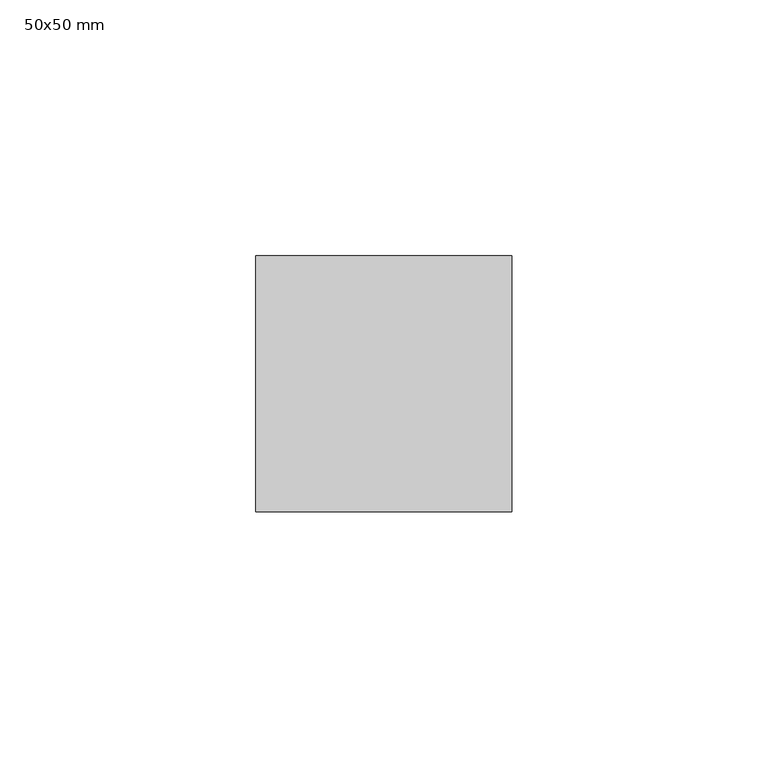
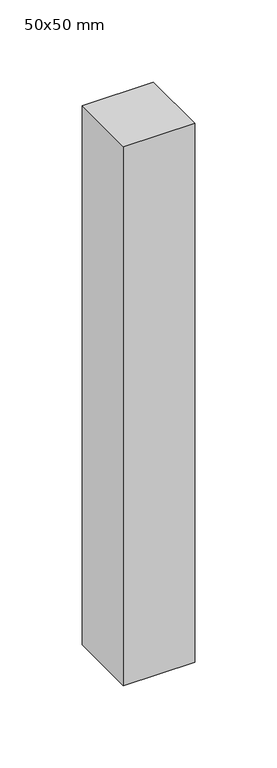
"""IFC4 building model written with IfcOpenShell, lengths in millimetres: member geometry, Obdélníková příčel : 50x50 mm."""

import ifcopenshell
import ifcopenshell.guid

model = None  # the IFC model being written
_history = None  # IfcOwnerHistory: only IFC2X3 demands one
_inside = {}  # id of a spatial element -> (the spatial element, [elements in it])
_under = {}  # id of a project, library or spatial element -> (it, [spatial elements below it])
_declared = {}  # id of a project -> (the project, [libraries it declares])
_typed = {}  # id of a type object -> (the type object, [elements of that type])
_made_of = {}  # id of a material, layer set ... -> (it, [elements and type objects made of it])


def new_model(schema):
    """Start an empty IFC model of exactly this schema.

    Asked for "IFC4X3", IfcOpenShell would pick the latest addendum, in which some entities
    have other attributes; the version numbers below select the first issue.
    IFC2X3 requires an IfcOwnerHistory on every rooted entity: one is made here for all.
    """
    global model, _history
    if schema == "IFC4X3":
        model = ifcopenshell.file(schema_version=(4, 3, 0, 0))
    else:
        model = ifcopenshell.file(schema=schema)
    _inside.clear()
    _under.clear()
    _declared.clear()
    _typed.clear()
    _made_of.clear()
    _history = None
    if model.schema == "IFC2X3":
        org = make("IfcOrganization", Name="unknown")
        user = make(
            "IfcPersonAndOrganization",
            ThePerson=make("IfcPerson", FamilyName="unknown"),
            TheOrganization=org,
        )
        app = make(
            "IfcApplication",
            ApplicationDeveloper=org,
            Version="unknown",
            ApplicationFullName="unknown",
            ApplicationIdentifier="unknown",
        )
        _history = make(
            "IfcOwnerHistory",
            OwningUser=user,
            OwningApplication=app,
            ChangeAction="ADDED",
            CreationDate=0,
        )
    return model


def make(cls, **values):
    """One entity of the class cls with the attributes given. An attribute that is None is left unset."""
    return model.create_entity(
        cls, **{name: value for name, value in values.items() if value is not None}
    )


def rooted(cls, **values):
    """An entity with a GlobalId (a new one), such as an element, a storey or a relation."""
    return make(cls, GlobalId=ifcopenshell.guid.new(), OwnerHistory=_history, **values)


def si_unit(unit_type, name, prefix=None):
    """IfcSIUnit, for example si_unit("LENGTHUNIT", "METRE", prefix="MILLI")."""
    return make("IfcSIUnit", UnitType=unit_type, Prefix=prefix, Name=name)


def assignment(units):
    """IfcUnitAssignment: the units of a project."""
    return None if units is None else make("IfcUnitAssignment", Units=units)


def point(xyz):
    """IfcCartesianPoint."""
    return None if xyz is None else make("IfcCartesianPoint", Coordinates=xyz)


def direction(xyz):
    """IfcDirection."""
    return None if xyz is None else make("IfcDirection", DirectionRatios=xyz)


def frame(location, z_axis=None, x_axis=None):
    """IfcAxis2Placement3D, a coordinate frame: its origin and axes. An axis left out is left unset."""
    return make(
        "IfcAxis2Placement3D",
        Location=point(location),
        Axis=direction(z_axis),
        RefDirection=direction(x_axis),
    )


def origin():
    """The frame at (0, 0, 0) with its axes left unset."""
    return frame((0.0, 0.0, 0.0))


def place(relative_to, where):
    """IfcLocalPlacement: puts the frame where relative to a parent placement (None: the world)."""
    return make(
        "IfcLocalPlacement", PlacementRelTo=relative_to, RelativePlacement=where
    )


def context(
    kind, dimensions, precision=None, world=None, true_north=None, identifier=None
):
    """IfcGeometricRepresentationContext, for example the 3D "Model" context."""
    return make(
        "IfcGeometricRepresentationContext",
        ContextIdentifier=identifier,
        ContextType=kind,
        CoordinateSpaceDimension=dimensions,
        Precision=precision,
        WorldCoordinateSystem=world,
        TrueNorth=true_north,
    )


def project(units=None, contexts=None):
    """IfcProject with its units and contexts."""
    return rooted(
        "IfcProject",
        Name="project",
        RepresentationContexts=contexts,
        UnitsInContext=assignment(units),
    )


def spatial(cls, under=None, at=None, **own):
    """A site, building, storey or space (cls), placed at a placement, below another one or the project."""
    s = rooted(cls, ObjectPlacement=at, **own)
    if under is not None:
        _under.setdefault(under.id(), (under, []))[1].append(s)
    return s


def polyline(points):
    """IfcPolyline through the points."""
    return make("IfcPolyline", Points=[point(p) for p in points])


def outline(outer, holes=None, kind="AREA"):
    """IfcArbitraryClosedProfileDef: a profile drawn as a closed curve; with holes, ...WithVoids."""
    if holes is None:
        return make("IfcArbitraryClosedProfileDef", ProfileType=kind, OuterCurve=outer)
    return make(
        "IfcArbitraryProfileDefWithVoids",
        ProfileType=kind,
        OuterCurve=outer,
        InnerCurves=holes,
    )


def extrude(swept, where, along, depth):
    """IfcExtrudedAreaSolid: the profile swept, set in the frame where, extruded along a direction by depth."""
    return make(
        "IfcExtrudedAreaSolid",
        SweptArea=swept,
        Position=where,
        ExtrudedDirection=direction(along),
        Depth=depth,
    )


def shape(context_of_items, identifier, shape_type, items):
    """IfcShapeRepresentation: the items that make up one representation, for example the "Body"."""
    return make(
        "IfcShapeRepresentation",
        ContextOfItems=context_of_items,
        RepresentationIdentifier=identifier,
        RepresentationType=shape_type,
        Items=items,
    )


def source(mapping_origin, context_of_items, identifier, shape_type, items):
    """IfcRepresentationMap: a shape defined once, which mapped items show again and again."""
    return make(
        "IfcRepresentationMap",
        MappingOrigin=mapping_origin,
        MappedRepresentation=shape(context_of_items, identifier, shape_type, items),
    )


def transform(
    local_origin,
    x_axis=None,
    y_axis=None,
    z_axis=None,
    scale=None,
    scale2=None,
    scale3=None,
    uniform=True,
):
    """IfcCartesianTransformationOperator3D, or its non-uniform kind. x_axis, y_axis, z_axis: its Axis1, 2, 3."""
    if uniform:
        return make(
            "IfcCartesianTransformationOperator3D",
            Axis1=direction(x_axis),
            Axis2=direction(y_axis),
            LocalOrigin=point(local_origin),
            Scale=scale,
            Axis3=direction(z_axis),
        )
    return make(
        "IfcCartesianTransformationOperator3DnonUniform",
        Axis1=direction(x_axis),
        Axis2=direction(y_axis),
        LocalOrigin=point(local_origin),
        Scale=scale,
        Axis3=direction(z_axis),
        Scale2=scale2,
        Scale3=scale3,
    )


def mapped(mapping_source, mapping_target):
    """IfcMappedItem: shows the shape of a source again, moved by a transform."""
    return make(
        "IfcMappedItem", MappingSource=mapping_source, MappingTarget=mapping_target
    )


def made_of(thing, what):
    """Note that an element or type object is made of a material, layer set ...; save() writes the relation."""
    if what is not None:
        _made_of.setdefault(what.id(), (what, []))[1].append(thing)
    return thing


def element(
    cls,
    number,
    at=None,
    inside=None,
    cuts=None,
    type_object=None,
    material=None,
    context=None,
    identifier="Body",
    shape_type=None,
    held_by="IfcProductDefinitionShape",
    body=None,
    shapes=None,
    **own,
):
    """One element of the class cls, such as IfcWall. Its Tag is "e" and its number.

    at: its placement. inside: the storey or other place that contains it. cuts: it is an
    opening in that element (IfcRelVoidsElement). A single representation is given by context,
    identifier, shape_type and body (its items); several are given by shapes. held_by: the class
    of the entity that holds the representations. save() writes the other relations.
    """
    e = rooted(cls, Tag="e%d" % number, ObjectPlacement=at, **own)
    if body is not None:
        shapes = [shape(context, identifier, shape_type, body)]
    if shapes is not None:
        e.Representation = make(held_by, Representations=shapes)
    if inside is not None:
        _inside.setdefault(inside.id(), (inside, []))[1].append(e)
    if cuts is not None:
        rooted(
            "IfcRelVoidsElement", RelatingBuildingElement=cuts, RelatedOpeningElement=e
        )
    if type_object is not None:
        _typed.setdefault(type_object.id(), (type_object, []))[1].append(e)
    return made_of(e, material)


def aggregate(whole, parts):
    """IfcRelAggregates: a whole, such as a stair, and the parts it consists of."""
    return rooted("IfcRelAggregates", RelatingObject=whole, RelatedObjects=parts)


def save(model, path):
    """Write the relations noted so far, then the file.

    IfcRelAggregates (storeys below a building ...), IfcRelContainedInSpatialStructure (elements
    in a storey), IfcRelDefinesByType, IfcRelAssociatesMaterial and IfcRelDeclares: one each for
    every whole, place, type object, material and project.
    """
    for whole, parts in _under.values():
        aggregate(whole, parts)
    for where, things in _inside.values():
        rooted(
            "IfcRelContainedInSpatialStructure",
            RelatedElements=things,
            RelatingStructure=where,
        )
    for kind, things in _typed.values():
        rooted("IfcRelDefinesByType", RelatedObjects=things, RelatingType=kind)
    for what, things in _made_of.values():
        rooted("IfcRelAssociatesMaterial", RelatedObjects=things, RelatingMaterial=what)
    for by, libraries in _declared.values():
        rooted("IfcRelDeclares", RelatingContext=by, RelatedDefinitions=libraries)
    model.write(path)


def member_50x50_mm_0f4eb3cd(model_context):
    return source(origin(), model_context, "Body", "SweptSolid", [
        extrude(outline(polyline([(0.0, 25.0), (0.0, -25.0), (-50.0, -25.0), (-50.0, 25.0), (0.0, 25.0)])), frame((0.0, 0.0, -400.0), z_axis=(0.0, 0.0, 1.0), x_axis=(1.0, 0.0, 0.0)), (0.0, 0.0, 1.0), 400.0),
    ])


if __name__ == "__main__":
    model = new_model("IFC4")
    model_context = context("Model", 3, world=origin())
    ifc_project = project(units=[si_unit("LENGTHUNIT", "METRE", prefix="MILLI")], contexts=[model_context])
    site = spatial("IfcSite", under=ifc_project)
    building = spatial("IfcBuilding", under=site)
    placement = place(None, origin())
    member_50x50_mm_shape = member_50x50_mm_0f4eb3cd(model_context)
    element("IfcMember", 1, ObjectType="Obdélníková příčel : 50x50 mm", at=placement, inside=building, context=model_context, shape_type="MappedRepresentation", body=[
        mapped(member_50x50_mm_shape, transform((0.0, 0.0, 0.0), x_axis=(1.0, 0.0, 0.0), y_axis=(0.0, 1.0, 0.0), z_axis=(0.0, 0.0, 1.0))),
    ])
    save(model, "model.ifc")
